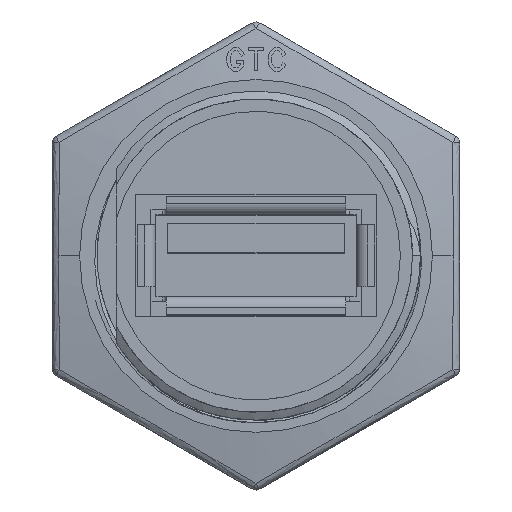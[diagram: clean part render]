
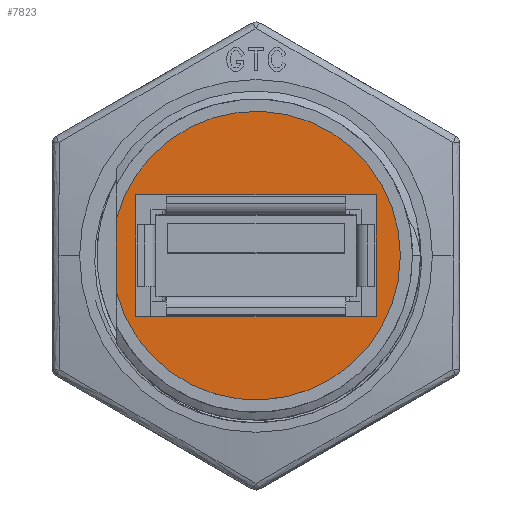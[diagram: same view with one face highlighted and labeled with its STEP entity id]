
A CAD part, top view. The second image highlights one B-rep face of the part: STEP entity #7823.
In plain terms, the highlighted planar face has unit normal (0, 0, 1).
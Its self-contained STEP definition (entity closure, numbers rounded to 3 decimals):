
#607 = FACE_BOUND ( 'NONE', #2320, .T. ) ;
#1185 = ORIENTED_EDGE ( 'NONE', *, *, #33156, .T. ) ;
#1249 = AXIS2_PLACEMENT_3D ( 'NONE', #14201, #38866, #14885 ) ;
#1421 = CARTESIAN_POINT ( 'NONE',  ( -7.5, 3.8, 0. ) ) ;
#1948 = CARTESIAN_POINT ( 'NONE',  ( -7.5, 3.8, 0. ) ) ;
#2320 = EDGE_LOOP ( 'NONE', ( #16773, #27477, #22980, #14090 ) ) ;
#2698 = DIRECTION ( 'NONE',  ( 0., 1., 0. ) ) ;
#4178 = VERTEX_POINT ( 'NONE', #40519 ) ;
#4826 = CARTESIAN_POINT ( 'NONE',  ( -8.7, 2.304, 0. ) ) ;
#4845 = DIRECTION ( 'NONE',  ( -1., 0., 0. ) ) ;
#5078 = LINE ( 'NONE', #1421, #8704 ) ;
#5805 = EDGE_CURVE ( 'NONE', #29439, #44796, #40308, .T. ) ;
#6128 = CARTESIAN_POINT ( 'NONE',  ( -7.5, 3.8, 0. ) ) ;
#6137 = LINE ( 'NONE', #34649, #18129 ) ;
#7788 = CIRCLE ( 'NONE', #1249, 9. ) ;
#7823 = ADVANCED_FACE ( 'NONE', ( #607, #28657 ), #25238, .F. ) ;
#8704 = VECTOR ( 'NONE', #4845, 1000. ) ;
#9108 = DIRECTION ( 'NONE',  ( 1., 0., 0. ) ) ;
#9556 = LINE ( 'NONE', #23474, #36213 ) ;
#9878 = VERTEX_POINT ( 'NONE', #29534 ) ;
#13796 = EDGE_CURVE ( 'NONE', #4178, #24850, #21384, .T. ) ;
#14090 = ORIENTED_EDGE ( 'NONE', *, *, #37078, .F. ) ;
#14201 = CARTESIAN_POINT ( 'NONE',  ( 0., 0., 0. ) ) ;
#14308 = DIRECTION ( 'NONE',  ( 0., 0., 1. ) ) ;
#14885 = DIRECTION ( 'NONE',  ( 1., 0., 0. ) ) ;
#15975 = VERTEX_POINT ( 'NONE', #20640 ) ;
#16773 = ORIENTED_EDGE ( 'NONE', *, *, #22923, .F. ) ;
#16852 = CARTESIAN_POINT ( 'NONE',  ( 9., 0., 0. ) ) ;
#18129 = VECTOR ( 'NONE', #2698, 1000. ) ;
#19140 = VERTEX_POINT ( 'NONE', #16852 ) ;
#19758 = DIRECTION ( 'NONE',  ( 0., 0., -1. ) ) ;
#20151 = ORIENTED_EDGE ( 'NONE', *, *, #13796, .F. ) ;
#20265 = EDGE_CURVE ( 'NONE', #15975, #29439, #5078, .T. ) ;
#20640 = CARTESIAN_POINT ( 'NONE',  ( 7.5, 3.8, 0. ) ) ;
#20952 = DIRECTION ( 'NONE',  ( 1., 0., 0. ) ) ;
#21384 = LINE ( 'NONE', #41510, #31425 ) ;
#21571 = ORIENTED_EDGE ( 'NONE', *, *, #23671, .T. ) ;
#21888 = AXIS2_PLACEMENT_3D ( 'NONE', #39174, #19758, #43492 ) ;
#22923 = EDGE_CURVE ( 'NONE', #44796, #9878, #9556, .T. ) ;
#22980 = ORIENTED_EDGE ( 'NONE', *, *, #20265, .F. ) ;
#23474 = CARTESIAN_POINT ( 'NONE',  ( -7.5, -3.8, 0. ) ) ;
#23671 = EDGE_CURVE ( 'NONE', #4178, #19140, #7788, .T. ) ;
#24850 = VERTEX_POINT ( 'NONE', #4826 ) ;
#25238 = PLANE ( 'NONE',  #21888 ) ;
#26053 = CIRCLE ( 'NONE', #40663, 9. ) ;
#26376 = CARTESIAN_POINT ( 'NONE',  ( -7.5, -3.8, 0. ) ) ;
#27477 = ORIENTED_EDGE ( 'NONE', *, *, #5805, .F. ) ;
#28657 = FACE_OUTER_BOUND ( 'NONE', #42043, .T. ) ;
#29439 = VERTEX_POINT ( 'NONE', #6128 ) ;
#29534 = CARTESIAN_POINT ( 'NONE',  ( 7.5, -3.8, 0. ) ) ;
#29784 = DIRECTION ( 'NONE',  ( 0., -1., 0. ) ) ;
#31425 = VECTOR ( 'NONE', #35307, 1000. ) ;
#31661 = CARTESIAN_POINT ( 'NONE',  ( 0., 0., 0. ) ) ;
#33156 = EDGE_CURVE ( 'NONE', #19140, #24850, #26053, .T. ) ;
#34649 = CARTESIAN_POINT ( 'NONE',  ( 7.5, 3.8, 0. ) ) ;
#34768 = VECTOR ( 'NONE', #29784, 1000. ) ;
#35307 = DIRECTION ( 'NONE',  ( 0., 1., 0. ) ) ;
#36213 = VECTOR ( 'NONE', #9108, 1000. ) ;
#37078 = EDGE_CURVE ( 'NONE', #9878, #15975, #6137, .T. ) ;
#38866 = DIRECTION ( 'NONE',  ( 0., 0., 1. ) ) ;
#39174 = CARTESIAN_POINT ( 'NONE',  ( 0., 0., 0. ) ) ;
#40308 = LINE ( 'NONE', #1948, #34768 ) ;
#40519 = CARTESIAN_POINT ( 'NONE',  ( -8.7, -2.304, 0. ) ) ;
#40663 = AXIS2_PLACEMENT_3D ( 'NONE', #31661, #14308, #20952 ) ;
#41510 = CARTESIAN_POINT ( 'NONE',  ( -8.7, 11.972, 0. ) ) ;
#42043 = EDGE_LOOP ( 'NONE', ( #21571, #1185, #20151 ) ) ;
#43492 = DIRECTION ( 'NONE',  ( -1., 0., 0. ) ) ;
#44796 = VERTEX_POINT ( 'NONE', #26376 ) ;
